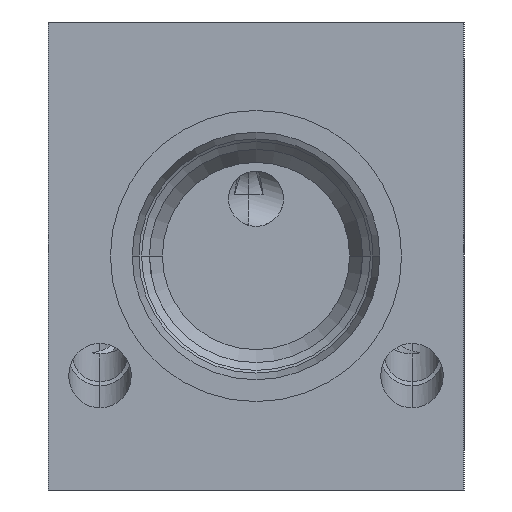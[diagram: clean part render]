
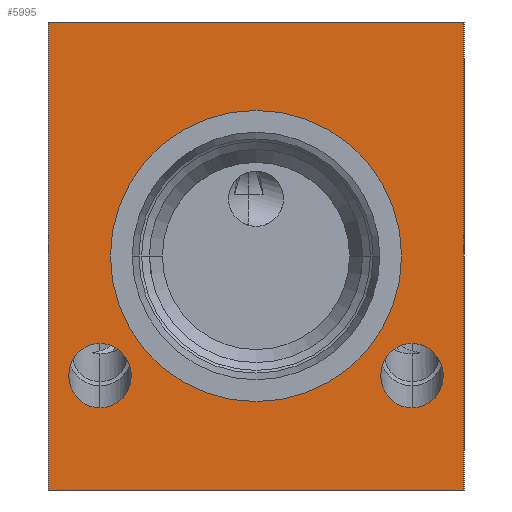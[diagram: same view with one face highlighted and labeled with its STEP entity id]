
A CAD part, left-side view. The second image highlights one B-rep face of the part: STEP entity #5995.
In plain terms, the highlighted planar face has unit normal (-1, 0, 0).
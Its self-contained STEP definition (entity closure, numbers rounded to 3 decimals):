
#24=DIRECTION('',(0.,-1.,0.));
#25=VECTOR('',#24,40.);
#26=CARTESIAN_POINT('',(-94.,40.,0.));
#27=LINE('',#26,#25);
#85=DIRECTION('',(0.,0.,1.));
#86=VECTOR('',#85,45.);
#87=CARTESIAN_POINT('',(-94.,40.,0.));
#88=LINE('',#87,#86);
#92=CARTESIAN_POINT('',(-94.,20.,22.5));
#93=DIRECTION('',(1.,0.,0.));
#94=DIRECTION('',(0.,-1.,0.));
#95=AXIS2_PLACEMENT_3D('',#92,#93,#94);
#100=CARTESIAN_POINT('',(-94.,20.,22.5));
#101=DIRECTION('',(1.,0.,0.));
#102=DIRECTION('',(0.,1.,0.));
#103=AXIS2_PLACEMENT_3D('',#100,#101,#102);
#108=CARTESIAN_POINT('',(-94.,35.,7.908));
#109=CARTESIAN_POINT('',(-94.,35.177,7.908));
#110=CARTESIAN_POINT('',(-94.,35.544,7.941));
#111=CARTESIAN_POINT('',(-94.,36.108,8.105));
#112=CARTESIAN_POINT('',(-94.,36.651,8.393));
#113=CARTESIAN_POINT('',(-94.,37.137,8.798));
#114=CARTESIAN_POINT('',(-94.,37.53,9.298));
#115=CARTESIAN_POINT('',(-94.,37.809,9.858));
#116=CARTESIAN_POINT('',(-94.,37.942,10.343));
#117=CARTESIAN_POINT('',(-94.,37.992,10.724));
#118=CARTESIAN_POINT('',(-94.,38.004,11.));
#119=CARTESIAN_POINT('',(-94.,37.992,11.276));
#120=CARTESIAN_POINT('',(-94.,37.942,11.657));
#121=CARTESIAN_POINT('',(-94.,37.809,12.142));
#122=CARTESIAN_POINT('',(-94.,37.53,12.702));
#123=CARTESIAN_POINT('',(-94.,37.137,13.202));
#124=CARTESIAN_POINT('',(-94.,36.651,13.607));
#125=CARTESIAN_POINT('',(-94.,36.108,13.895));
#126=CARTESIAN_POINT('',(-94.,35.544,14.059));
#127=CARTESIAN_POINT('',(-94.,35.177,14.092));
#128=CARTESIAN_POINT('',(-94.,35.,14.092));
#133=CARTESIAN_POINT('',(-94.,35.,14.092));
#134=CARTESIAN_POINT('',(-94.,34.823,14.092));
#135=CARTESIAN_POINT('',(-94.,34.456,14.059));
#136=CARTESIAN_POINT('',(-94.,33.892,13.895));
#137=CARTESIAN_POINT('',(-94.,33.349,13.607));
#138=CARTESIAN_POINT('',(-94.,32.863,13.202));
#139=CARTESIAN_POINT('',(-94.,32.47,12.702));
#140=CARTESIAN_POINT('',(-94.,32.191,12.142));
#141=CARTESIAN_POINT('',(-94.,32.058,11.657));
#142=CARTESIAN_POINT('',(-94.,32.008,11.276));
#143=CARTESIAN_POINT('',(-94.,31.996,11.));
#144=CARTESIAN_POINT('',(-94.,32.008,10.724));
#145=CARTESIAN_POINT('',(-94.,32.058,10.343));
#146=CARTESIAN_POINT('',(-94.,32.191,9.858));
#147=CARTESIAN_POINT('',(-94.,32.47,9.298));
#148=CARTESIAN_POINT('',(-94.,32.863,8.798));
#149=CARTESIAN_POINT('',(-94.,33.349,8.393));
#150=CARTESIAN_POINT('',(-94.,33.892,8.105));
#151=CARTESIAN_POINT('',(-94.,34.456,7.941));
#152=CARTESIAN_POINT('',(-94.,34.823,7.908));
#153=CARTESIAN_POINT('',(-94.,35.,7.908));
#158=CARTESIAN_POINT('',(-94.,5.,7.908));
#159=CARTESIAN_POINT('',(-94.,5.177,7.908));
#160=CARTESIAN_POINT('',(-94.,5.544,7.941));
#161=CARTESIAN_POINT('',(-94.,6.108,8.105));
#162=CARTESIAN_POINT('',(-94.,6.651,8.393));
#163=CARTESIAN_POINT('',(-94.,7.137,8.798));
#164=CARTESIAN_POINT('',(-94.,7.53,9.298));
#165=CARTESIAN_POINT('',(-94.,7.809,9.858));
#166=CARTESIAN_POINT('',(-94.,7.942,10.343));
#167=CARTESIAN_POINT('',(-94.,7.992,10.724));
#168=CARTESIAN_POINT('',(-94.,8.004,11.));
#169=CARTESIAN_POINT('',(-94.,7.992,11.276));
#170=CARTESIAN_POINT('',(-94.,7.942,11.657));
#171=CARTESIAN_POINT('',(-94.,7.809,12.142));
#172=CARTESIAN_POINT('',(-94.,7.53,12.702));
#173=CARTESIAN_POINT('',(-94.,7.137,13.202));
#174=CARTESIAN_POINT('',(-94.,6.651,13.607));
#175=CARTESIAN_POINT('',(-94.,6.108,13.895));
#176=CARTESIAN_POINT('',(-94.,5.544,14.059));
#177=CARTESIAN_POINT('',(-94.,5.177,14.092));
#178=CARTESIAN_POINT('',(-94.,5.,14.092));
#183=CARTESIAN_POINT('',(-94.,5.,14.092));
#184=CARTESIAN_POINT('',(-94.,4.823,14.092));
#185=CARTESIAN_POINT('',(-94.,4.456,14.059));
#186=CARTESIAN_POINT('',(-94.,3.892,13.895));
#187=CARTESIAN_POINT('',(-94.,3.349,13.607));
#188=CARTESIAN_POINT('',(-94.,2.863,13.202));
#189=CARTESIAN_POINT('',(-94.,2.47,12.702));
#190=CARTESIAN_POINT('',(-94.,2.191,12.142));
#191=CARTESIAN_POINT('',(-94.,2.058,11.657));
#192=CARTESIAN_POINT('',(-94.,2.008,11.276));
#193=CARTESIAN_POINT('',(-94.,1.996,11.));
#194=CARTESIAN_POINT('',(-94.,2.008,10.724));
#195=CARTESIAN_POINT('',(-94.,2.058,10.343));
#196=CARTESIAN_POINT('',(-94.,2.191,9.858));
#197=CARTESIAN_POINT('',(-94.,2.47,9.298));
#198=CARTESIAN_POINT('',(-94.,2.863,8.798));
#199=CARTESIAN_POINT('',(-94.,3.349,8.393));
#200=CARTESIAN_POINT('',(-94.,3.892,8.105));
#201=CARTESIAN_POINT('',(-94.,4.456,7.941));
#202=CARTESIAN_POINT('',(-94.,4.823,7.908));
#203=CARTESIAN_POINT('',(-94.,5.,7.908));
#549=DIRECTION('',(0.,0.,1.));
#550=VECTOR('',#549,45.);
#551=CARTESIAN_POINT('',(-94.,0.,0.));
#552=LINE('',#551,#550);
#700=DIRECTION('',(0.,-1.,0.));
#701=VECTOR('',#700,40.);
#702=CARTESIAN_POINT('',(-94.,40.,45.));
#703=LINE('',#702,#701);
#5504=CARTESIAN_POINT('',(-94.,40.,0.));
#5505=CARTESIAN_POINT('',(-94.,0.,0.));
#5506=VERTEX_POINT('',#5504);
#5507=VERTEX_POINT('',#5505);
#5512=CARTESIAN_POINT('',(-94.,40.,45.));
#5513=CARTESIAN_POINT('',(-94.,0.,45.));
#5514=VERTEX_POINT('',#5512);
#5515=VERTEX_POINT('',#5513);
#5703=CARTESIAN_POINT('',(-94.,6.,22.5));
#5704=VERTEX_POINT('',#5703);
#5705=CARTESIAN_POINT('',(-94.,34.,22.5));
#5706=VERTEX_POINT('',#5705);
#5830=CARTESIAN_POINT('',(-94.,35.,7.908));
#5831=VERTEX_POINT('',#5830);
#5832=CARTESIAN_POINT('',(-94.,35.,14.092));
#5833=VERTEX_POINT('',#5832);
#5850=CARTESIAN_POINT('',(-94.,5.,7.908));
#5851=VERTEX_POINT('',#5850);
#5852=CARTESIAN_POINT('',(-94.,5.,14.092));
#5853=VERTEX_POINT('',#5852);
#5963=CARTESIAN_POINT('',(-94.,40.,0.));
#5964=DIRECTION('',(-1.,0.,0.));
#5965=DIRECTION('',(0.,-1.,0.));
#5966=AXIS2_PLACEMENT_3D('',#5963,#5964,#5965);
#5967=PLANE('',#5966);
#5968=ORIENTED_EDGE('',*,*,#5928,.F.);
#5970=ORIENTED_EDGE('',*,*,#5969,.T.);
#5972=ORIENTED_EDGE('',*,*,#5971,.T.);
#5974=ORIENTED_EDGE('',*,*,#5973,.F.);
#5975=EDGE_LOOP('',(#5968,#5970,#5972,#5974));
#5976=FACE_OUTER_BOUND('',#5975,.F.);
#5978=ORIENTED_EDGE('',*,*,#5977,.F.);
#5980=ORIENTED_EDGE('',*,*,#5979,.F.);
#5981=EDGE_LOOP('',(#5978,#5980));
#5982=FACE_BOUND('',#5981,.F.);
#5984=ORIENTED_EDGE('',*,*,#5983,.F.);
#5986=ORIENTED_EDGE('',*,*,#5985,.F.);
#5987=EDGE_LOOP('',(#5984,#5986));
#5988=FACE_BOUND('',#5987,.F.);
#5990=ORIENTED_EDGE('',*,*,#5989,.F.);
#5992=ORIENTED_EDGE('',*,*,#5991,.F.);
#5993=EDGE_LOOP('',(#5990,#5992));
#5994=FACE_BOUND('',#5993,.F.);
#96=CIRCLE('',#95,14.);
#104=CIRCLE('',#103,14.);
#129=B_SPLINE_CURVE_WITH_KNOTS('',3,(#108,#109,#110,#111,#112,#113,#114,#115,
#116,#117,#118,#119,#120,#121,#122,#123,#124,#125,#126,#127,#128),.UNSPECIFIED.,
.F.,.F.,(4,1,1,1,1,1,1,1,1,1,1,1,1,1,1,1,1,1,4),(0.,0.063,0.125,0.188,
0.25,0.313,0.375,0.438,0.469,0.5,0.531,0.563,0.625,
0.688,0.75,0.813,0.875,0.938,1.),.UNSPECIFIED.);
#154=B_SPLINE_CURVE_WITH_KNOTS('',3,(#133,#134,#135,#136,#137,#138,#139,#140,
#141,#142,#143,#144,#145,#146,#147,#148,#149,#150,#151,#152,#153),.UNSPECIFIED.,
.F.,.F.,(4,1,1,1,1,1,1,1,1,1,1,1,1,1,1,1,1,1,4),(0.,0.063,0.125,0.188,
0.25,0.313,0.375,0.438,0.469,0.5,0.531,0.563,0.625,
0.688,0.75,0.813,0.875,0.938,1.),.UNSPECIFIED.);
#179=B_SPLINE_CURVE_WITH_KNOTS('',3,(#158,#159,#160,#161,#162,#163,#164,#165,
#166,#167,#168,#169,#170,#171,#172,#173,#174,#175,#176,#177,#178),.UNSPECIFIED.,
.F.,.F.,(4,1,1,1,1,1,1,1,1,1,1,1,1,1,1,1,1,1,4),(0.,0.063,0.125,0.188,
0.25,0.313,0.375,0.438,0.469,0.5,0.531,0.563,0.625,
0.688,0.75,0.813,0.875,0.938,1.),.UNSPECIFIED.);
#204=B_SPLINE_CURVE_WITH_KNOTS('',3,(#183,#184,#185,#186,#187,#188,#189,#190,
#191,#192,#193,#194,#195,#196,#197,#198,#199,#200,#201,#202,#203),.UNSPECIFIED.,
.F.,.F.,(4,1,1,1,1,1,1,1,1,1,1,1,1,1,1,1,1,1,4),(0.,0.063,0.125,0.188,
0.25,0.313,0.375,0.438,0.469,0.5,0.531,0.563,0.625,
0.688,0.75,0.813,0.875,0.938,1.),.UNSPECIFIED.);
#5928=EDGE_CURVE('',#5506,#5507,#27,.T.);
#5969=EDGE_CURVE('',#5506,#5514,#88,.T.);
#5971=EDGE_CURVE('',#5514,#5515,#703,.T.);
#5973=EDGE_CURVE('',#5507,#5515,#552,.T.);
#5977=EDGE_CURVE('',#5704,#5706,#96,.T.);
#5979=EDGE_CURVE('',#5706,#5704,#104,.T.);
#5983=EDGE_CURVE('',#5831,#5833,#129,.T.);
#5985=EDGE_CURVE('',#5833,#5831,#154,.T.);
#5989=EDGE_CURVE('',#5851,#5853,#179,.T.);
#5991=EDGE_CURVE('',#5853,#5851,#204,.T.);
#5995=ADVANCED_FACE('',(#5976,#5982,#5988,#5994),#5967,.T.);
